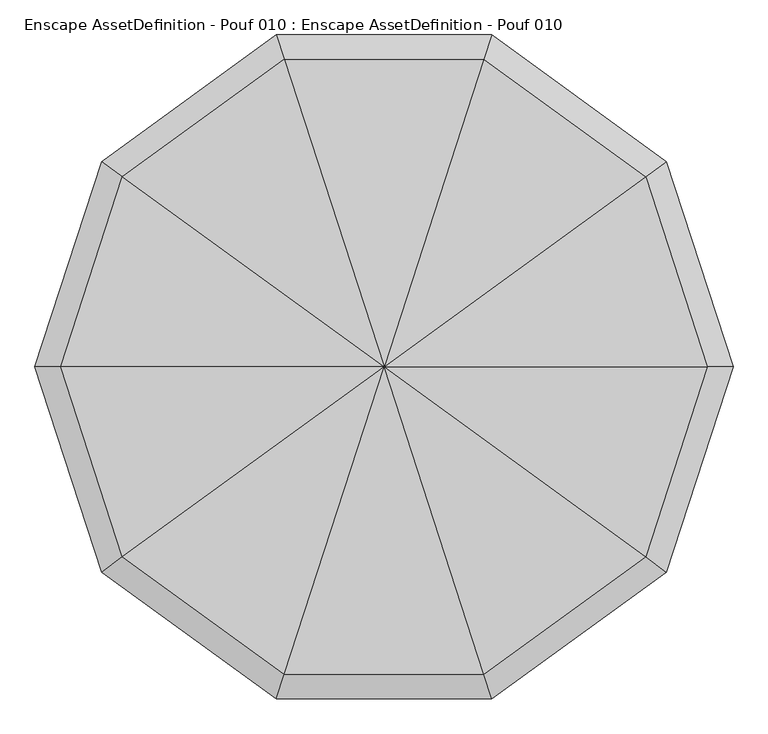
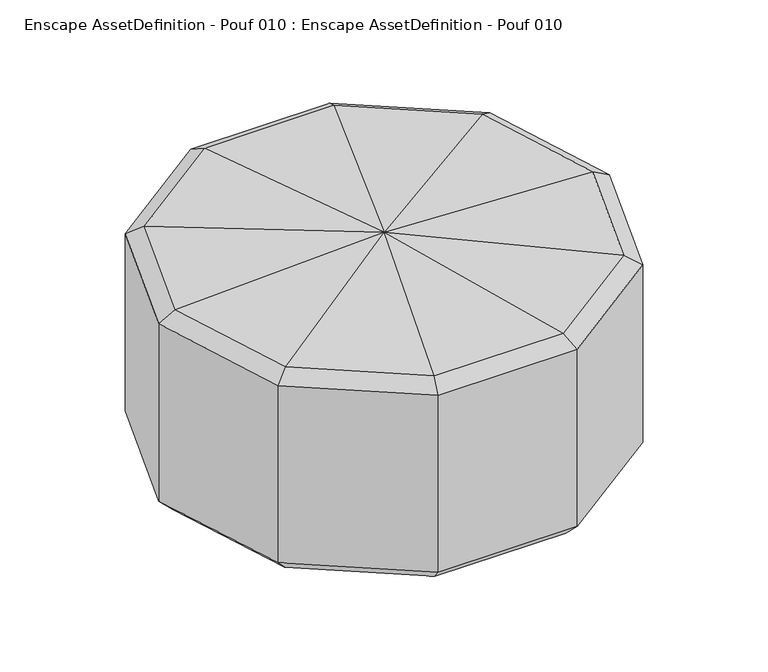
"""IFC4 building model written with IfcOpenShell, lengths in millimetres: geographic element geometry, Enscape AssetDefinition - Pouf 010 : Enscape AssetDefinition - Pouf 010."""

from ifc_helpers import new_model, si_unit, origin, place, context, project, spatial, triangles, source, transform, mapped, element, save


def enscape_assetdefinition_pouf_010_enscape_assetdefinition_6ef82502(model_context):
    return source(origin(), model_context, "Body", "Tessellation", [
        triangles([(416.8292447, 302.8447596, 31.1586541), (416.8292447, 302.8447596, 459.3782464), (515.2294521, 0.0, 459.3782464), (515.2294521, 0.0, 31.1586541), (416.8292447, -302.8438694, 31.1586541), (416.8292447, -302.8438694, 459.3782464), (159.2145186, -490.012423, 31.1586541), (391.6221714, -284.5297801, 0.0), (484.0708526, 0.0, 0.0), (391.6221714, 284.5297801, 0.0), (149.5862728, 460.3793481, 0.0), (-149.5862728, 460.3793481, 0.0), (159.2145186, 490.012423, 31.1586541), (-159.2145186, 490.012423, 31.1586541), (-159.2145186, 490.012423, 459.3782464), (-147.4775534, 453.8889012, 480.0754932), (-416.8292447, 302.8447596, 459.3782464), (-515.2294521, 0.0, 459.3782464), (-386.1011785, 280.5190693, 480.0754932), (-416.8292447, 302.8447596, 31.1586541), (-484.0708526, 0.0, 0.0), (-391.6221714, 284.5297801, 0.0), (-515.2294521, 0.0, 31.1586541), (-477.2472502, 0.0, 480.0754932), (-386.1011785, -280.5181791, 480.0754932), (-147.4775534, -453.8889012, 480.0754932), (-159.2145186, -490.012423, 459.3782464), (-416.8292447, -302.8438694, 459.3782464), (-416.8292447, -302.8438694, 31.1586541), (-391.6221714, -284.5297801, 0.0), (0.0, 0.0, 0.0), (-149.5862728, -460.3793481, 0.0), (-159.2145186, -490.012423, 31.1586541), (149.5862728, -460.3793481, 0.0), (159.2145186, -490.012423, 459.3782464), (147.4775534, -453.8889012, 480.0754932), (386.1011785, -280.5181791, 480.0754932), (477.2472502, 0.0, 480.0754932), (386.1011785, 280.5190693, 480.0754932), (0.0, 0.0, 499.9801286), (147.4775534, 453.8889012, 480.0754932), (159.2145186, 490.012423, 459.3782464)], [[16, 41, 42], [2, 42, 41], [41, 39, 2], [16, 19, 40], [41, 16, 40], [39, 41, 40], [38, 39, 40], [37, 38, 40], [38, 37, 6], [8, 34, 31], [7, 34, 8], [35, 6, 37], [6, 35, 7], [36, 37, 40], [37, 36, 35], [26, 36, 40], [36, 26, 27], [27, 35, 36], [34, 7, 33], [35, 27, 33], [33, 7, 35], [33, 32, 34], [34, 32, 31], [32, 30, 31], [29, 30, 32], [32, 33, 29], [29, 33, 27], [28, 27, 26], [27, 28, 29], [25, 26, 40], [26, 25, 28], [24, 25, 40], [19, 24, 40], [25, 24, 18], [18, 28, 25], [30, 29, 23], [28, 18, 23], [23, 29, 28], [23, 21, 30], [30, 21, 31], [21, 22, 31], [20, 22, 21], [21, 23, 20], [20, 23, 18], [24, 19, 17], [17, 18, 24], [18, 17, 20], [19, 16, 15], [15, 17, 19], [42, 15, 16], [22, 20, 14], [17, 15, 14], [14, 20, 17], [14, 12, 22], [22, 12, 31], [12, 14, 13], [15, 42, 13], [13, 14, 15], [42, 2, 1], [1, 13, 42], [13, 11, 12], [11, 13, 1], [12, 11, 31], [1, 10, 11], [11, 10, 31], [9, 8, 31], [10, 9, 31], [5, 8, 9], [8, 5, 7], [7, 5, 6], [6, 3, 38], [39, 38, 3], [3, 2, 39], [3, 6, 5], [9, 4, 5], [4, 9, 10], [10, 1, 4], [5, 4, 3], [2, 3, 4], [4, 1, 2]]),
    ])


if __name__ == "__main__":
    model = new_model("IFC4")
    model_context = context("Model", 3, world=origin())
    ifc_project = project(units=[si_unit("LENGTHUNIT", "METRE", prefix="MILLI")], contexts=[model_context])
    site = spatial("IfcSite", under=ifc_project)
    building = spatial("IfcBuilding", under=site)
    placement = place(None, origin())
    enscape_assetdefinition_pouf_010_enscape_assetdefinition_shape = enscape_assetdefinition_pouf_010_enscape_assetdefinition_6ef82502(model_context)
    element("IfcGeographicElement", 1, ObjectType="Enscape AssetDefinition - Pouf 010 : Enscape AssetDefinition - Pouf 010", at=placement, inside=building, context=model_context, shape_type="MappedRepresentation", body=[
        mapped(enscape_assetdefinition_pouf_010_enscape_assetdefinition_shape, transform((0.0, 0.0, 0.0), x_axis=(1.0, 0.0, 0.0), y_axis=(0.0, 1.0, 0.0), z_axis=(0.0, 0.0, 1.0))),
    ])
    save(model, "model.ifc")
